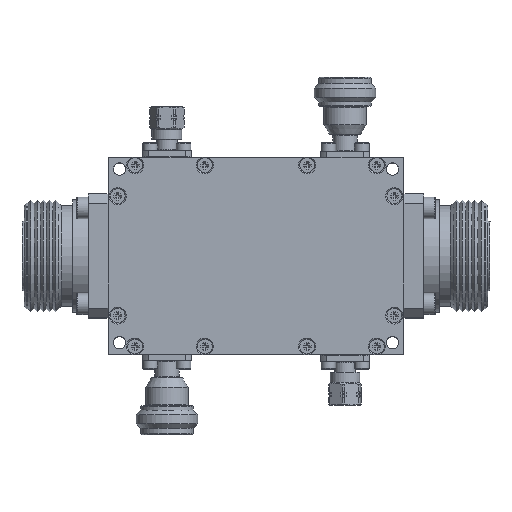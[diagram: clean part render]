
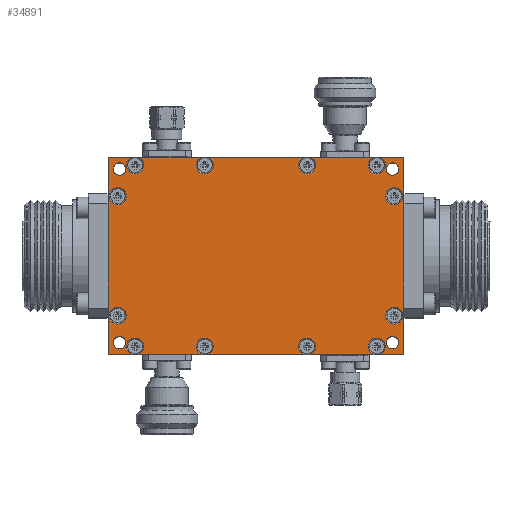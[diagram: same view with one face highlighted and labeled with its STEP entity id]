
A CAD part, top view. The second image highlights one B-rep face of the part: STEP entity #34891.
In plain terms, the highlighted planar face has unit normal (0, 0, 1).
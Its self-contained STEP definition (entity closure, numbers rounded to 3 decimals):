
#1176=LINE('',#46122,#3040);
#1177=LINE('',#46127,#3041);
#1178=LINE('',#46131,#3042);
#1179=LINE('',#46135,#3043);
#1180=LINE('',#46139,#3044);
#1181=LINE('',#46141,#3045);
#1182=LINE('',#46143,#3046);
#1183=LINE('',#46147,#3047);
#1184=LINE('',#46151,#3048);
#1185=LINE('',#46155,#3049);
#1186=LINE('',#46159,#3050);
#1187=LINE('',#46161,#3051);
#3040=VECTOR('',#39209,1000.);
#3041=VECTOR('',#39212,1000.);
#3042=VECTOR('',#39215,1000.);
#3043=VECTOR('',#39218,1000.);
#3044=VECTOR('',#39221,1000.);
#3045=VECTOR('',#39222,1000.);
#3046=VECTOR('',#39223,1000.);
#3047=VECTOR('',#39226,1000.);
#3048=VECTOR('',#39229,1000.);
#3049=VECTOR('',#39232,1000.);
#3050=VECTOR('',#39235,1000.);
#3051=VECTOR('',#39236,1000.);
#4850=PLANE('',#36562);
#5869=ORIENTED_EDGE('',*,*,#12432,.F.);
#5870=ORIENTED_EDGE('',*,*,#12433,.T.);
#5871=ORIENTED_EDGE('',*,*,#12434,.F.);
#5872=ORIENTED_EDGE('',*,*,#12435,.T.);
#5873=ORIENTED_EDGE('',*,*,#12436,.F.);
#5874=ORIENTED_EDGE('',*,*,#12437,.T.);
#5875=ORIENTED_EDGE('',*,*,#12438,.F.);
#5876=ORIENTED_EDGE('',*,*,#12439,.T.);
#5877=ORIENTED_EDGE('',*,*,#12440,.F.);
#5878=ORIENTED_EDGE('',*,*,#12441,.F.);
#5879=ORIENTED_EDGE('',*,*,#12442,.F.);
#5880=ORIENTED_EDGE('',*,*,#12443,.T.);
#5881=ORIENTED_EDGE('',*,*,#12444,.F.);
#5882=ORIENTED_EDGE('',*,*,#12445,.T.);
#5883=ORIENTED_EDGE('',*,*,#12446,.F.);
#5884=ORIENTED_EDGE('',*,*,#12447,.T.);
#5885=ORIENTED_EDGE('',*,*,#12448,.F.);
#5886=ORIENTED_EDGE('',*,*,#12449,.T.);
#5887=ORIENTED_EDGE('',*,*,#12450,.F.);
#5888=ORIENTED_EDGE('',*,*,#12451,.F.);
#5889=ORIENTED_EDGE('',*,*,#12452,.F.);
#5890=ORIENTED_EDGE('',*,*,#12453,.F.);
#5891=ORIENTED_EDGE('',*,*,#12454,.F.);
#5892=ORIENTED_EDGE('',*,*,#12455,.F.);
#5893=ORIENTED_EDGE('',*,*,#12431,.T.);
#5894=ORIENTED_EDGE('',*,*,#12429,.T.);
#5895=ORIENTED_EDGE('',*,*,#12427,.T.);
#5896=ORIENTED_EDGE('',*,*,#12425,.T.);
#12425=EDGE_CURVE('',#15721,#15721,#18123,.T.);
#12427=EDGE_CURVE('',#15723,#15723,#18125,.T.);
#12429=EDGE_CURVE('',#15725,#15725,#18127,.T.);
#12431=EDGE_CURVE('',#15727,#15727,#18129,.T.);
#12432=EDGE_CURVE('',#15728,#15729,#1176,.T.);
#12433=EDGE_CURVE('',#15728,#15730,#18130,.T.);
#12434=EDGE_CURVE('',#15731,#15730,#1177,.T.);
#12435=EDGE_CURVE('',#15731,#15732,#18131,.T.);
#12436=EDGE_CURVE('',#15733,#15732,#1178,.T.);
#12437=EDGE_CURVE('',#15733,#15734,#18132,.T.);
#12438=EDGE_CURVE('',#15735,#15734,#1179,.T.);
#12439=EDGE_CURVE('',#15735,#15736,#18133,.T.);
#12440=EDGE_CURVE('',#15737,#15736,#1180,.T.);
#12441=EDGE_CURVE('',#15738,#15737,#1181,.T.);
#12442=EDGE_CURVE('',#15739,#15738,#1182,.T.);
#12443=EDGE_CURVE('',#15739,#15740,#18134,.T.);
#12444=EDGE_CURVE('',#15741,#15740,#1183,.T.);
#12445=EDGE_CURVE('',#15741,#15742,#18135,.T.);
#12446=EDGE_CURVE('',#15743,#15742,#1184,.T.);
#12447=EDGE_CURVE('',#15743,#15744,#18136,.T.);
#12448=EDGE_CURVE('',#15745,#15744,#1185,.T.);
#12449=EDGE_CURVE('',#15745,#15746,#18137,.T.);
#12450=EDGE_CURVE('',#15747,#15746,#1186,.T.);
#12451=EDGE_CURVE('',#15729,#15747,#1187,.T.);
#12452=EDGE_CURVE('',#15748,#15748,#18138,.T.);
#12453=EDGE_CURVE('',#15749,#15749,#18139,.T.);
#12454=EDGE_CURVE('',#15750,#15750,#18140,.T.);
#12455=EDGE_CURVE('',#15751,#15751,#18141,.T.);
#15721=VERTEX_POINT('',#46105);
#15723=VERTEX_POINT('',#46110);
#15725=VERTEX_POINT('',#46115);
#15727=VERTEX_POINT('',#46120);
#15728=VERTEX_POINT('',#46123);
#15729=VERTEX_POINT('',#46124);
#15730=VERTEX_POINT('',#46126);
#15731=VERTEX_POINT('',#46128);
#15732=VERTEX_POINT('',#46130);
#15733=VERTEX_POINT('',#46132);
#15734=VERTEX_POINT('',#46134);
#15735=VERTEX_POINT('',#46136);
#15736=VERTEX_POINT('',#46138);
#15737=VERTEX_POINT('',#46140);
#15738=VERTEX_POINT('',#46142);
#15739=VERTEX_POINT('',#46144);
#15740=VERTEX_POINT('',#46146);
#15741=VERTEX_POINT('',#46148);
#15742=VERTEX_POINT('',#46150);
#15743=VERTEX_POINT('',#46152);
#15744=VERTEX_POINT('',#46154);
#15745=VERTEX_POINT('',#46156);
#15746=VERTEX_POINT('',#46158);
#15747=VERTEX_POINT('',#46160);
#15748=VERTEX_POINT('',#46163);
#15749=VERTEX_POINT('',#46165);
#15750=VERTEX_POINT('',#46167);
#15751=VERTEX_POINT('',#46169);
#18123=CIRCLE('',#36552,2.2);
#18125=CIRCLE('',#36555,2.2);
#18127=CIRCLE('',#36558,2.2);
#18129=CIRCLE('',#36561,2.2);
#18130=CIRCLE('',#36563,2.2);
#18131=CIRCLE('',#36564,2.2);
#18132=CIRCLE('',#36565,2.2);
#18133=CIRCLE('',#36566,2.2);
#18134=CIRCLE('',#36567,2.2);
#18135=CIRCLE('',#36568,2.2);
#18136=CIRCLE('',#36569,2.2);
#18137=CIRCLE('',#36570,2.2);
#18138=CIRCLE('',#36571,1.6);
#18139=CIRCLE('',#36572,1.6);
#18140=CIRCLE('',#36573,1.6);
#18141=CIRCLE('',#36574,1.6);
#19093=EDGE_LOOP('',(#5869,#5870,#5871,#5872,#5873,#5874,#5875,#5876,#5877,
#5878,#5879,#5880,#5881,#5882,#5883,#5884,#5885,#5886,#5887,#5888));
#19094=EDGE_LOOP('',(#5889));
#19095=EDGE_LOOP('',(#5890));
#19096=EDGE_LOOP('',(#5891));
#19097=EDGE_LOOP('',(#5892));
#19098=EDGE_LOOP('',(#5893));
#19099=EDGE_LOOP('',(#5894));
#19100=EDGE_LOOP('',(#5895));
#19101=EDGE_LOOP('',(#5896));
#21271=FACE_BOUND('',#19093,.T.);
#21272=FACE_BOUND('',#19094,.T.);
#21273=FACE_BOUND('',#19095,.T.);
#21274=FACE_BOUND('',#19096,.T.);
#21275=FACE_BOUND('',#19097,.T.);
#21276=FACE_BOUND('',#19098,.T.);
#21277=FACE_BOUND('',#19099,.T.);
#21278=FACE_BOUND('',#19100,.T.);
#21279=FACE_BOUND('',#19101,.T.);
#34891=ADVANCED_FACE('',(#21271,#21272,#21273,#21274,#21275,#21276,#21277,
#21278,#21279),#4850,.F.);
#36552=AXIS2_PLACEMENT_3D('',#46104,#39187,#39188);
#36555=AXIS2_PLACEMENT_3D('',#46109,#39193,#39194);
#36558=AXIS2_PLACEMENT_3D('',#46114,#39199,#39200);
#36561=AXIS2_PLACEMENT_3D('',#46119,#39205,#39206);
#36562=AXIS2_PLACEMENT_3D('',#46121,#39207,#39208);
#36563=AXIS2_PLACEMENT_3D('',#46125,#39210,#39211);
#36564=AXIS2_PLACEMENT_3D('',#46129,#39213,#39214);
#36565=AXIS2_PLACEMENT_3D('',#46133,#39216,#39217);
#36566=AXIS2_PLACEMENT_3D('',#46137,#39219,#39220);
#36567=AXIS2_PLACEMENT_3D('',#46145,#39224,#39225);
#36568=AXIS2_PLACEMENT_3D('',#46149,#39227,#39228);
#36569=AXIS2_PLACEMENT_3D('',#46153,#39230,#39231);
#36570=AXIS2_PLACEMENT_3D('',#46157,#39233,#39234);
#36571=AXIS2_PLACEMENT_3D('',#46162,#39237,#39238);
#36572=AXIS2_PLACEMENT_3D('',#46164,#39239,#39240);
#36573=AXIS2_PLACEMENT_3D('',#46166,#39241,#39242);
#36574=AXIS2_PLACEMENT_3D('',#46168,#39243,#39244);
#39187=DIRECTION('',(0.,0.,-1.));
#39188=DIRECTION('',(0.,1.,0.));
#39193=DIRECTION('',(0.,0.,-1.));
#39194=DIRECTION('',(0.,1.,0.));
#39199=DIRECTION('',(0.,0.,-1.));
#39200=DIRECTION('',(0.,1.,0.));
#39205=DIRECTION('',(0.,0.,-1.));
#39206=DIRECTION('',(0.,1.,0.));
#39207=DIRECTION('',(0.,0.,-1.));
#39208=DIRECTION('',(-1.,0.,0.));
#39209=DIRECTION('',(-1.,0.,0.));
#39210=DIRECTION('',(0.,0.,-1.));
#39211=DIRECTION('',(0.,1.,0.));
#39212=DIRECTION('',(-1.,0.,0.));
#39213=DIRECTION('',(0.,0.,-1.));
#39214=DIRECTION('',(0.,1.,0.));
#39215=DIRECTION('',(-1.,0.,0.));
#39216=DIRECTION('',(0.,0.,-1.));
#39217=DIRECTION('',(0.,1.,0.));
#39218=DIRECTION('',(-1.,0.,0.));
#39219=DIRECTION('',(0.,0.,-1.));
#39220=DIRECTION('',(0.,1.,0.));
#39221=DIRECTION('',(-1.,0.,0.));
#39222=DIRECTION('',(0.,-1.,0.));
#39223=DIRECTION('',(1.,0.,0.));
#39224=DIRECTION('',(0.,0.,-1.));
#39225=DIRECTION('',(0.,1.,0.));
#39226=DIRECTION('',(1.,0.,0.));
#39227=DIRECTION('',(0.,0.,-1.));
#39228=DIRECTION('',(0.,1.,0.));
#39229=DIRECTION('',(1.,0.,0.));
#39230=DIRECTION('',(0.,0.,-1.));
#39231=DIRECTION('',(0.,1.,0.));
#39232=DIRECTION('',(1.,0.,0.));
#39233=DIRECTION('',(0.,0.,-1.));
#39234=DIRECTION('',(0.,1.,0.));
#39235=DIRECTION('',(1.,0.,0.));
#39236=DIRECTION('',(0.,1.,0.));
#39237=DIRECTION('',(0.,0.,1.));
#39238=DIRECTION('',(1.,0.,0.));
#39239=DIRECTION('',(0.,0.,1.));
#39240=DIRECTION('',(1.,0.,0.));
#39241=DIRECTION('',(0.,0.,1.));
#39242=DIRECTION('',(1.,0.,0.));
#39243=DIRECTION('',(0.,0.,1.));
#39244=DIRECTION('',(1.,0.,0.));
#46104=CARTESIAN_POINT('',(35.7,-15.4,11.));
#46105=CARTESIAN_POINT('',(35.7,-13.2,11.));
#46109=CARTESIAN_POINT('',(35.7,15.4,11.));
#46110=CARTESIAN_POINT('',(35.7,17.6,11.));
#46114=CARTESIAN_POINT('',(-35.7,15.4,11.));
#46115=CARTESIAN_POINT('',(-35.7,17.6,11.));
#46119=CARTESIAN_POINT('',(-35.7,-15.4,11.));
#46120=CARTESIAN_POINT('',(-35.7,-13.2,11.));
#46121=CARTESIAN_POINT('',(0.,0.,11.));
#46122=CARTESIAN_POINT('',(38.2,-25.4,11.));
#46123=CARTESIAN_POINT('',(-32.117,-25.4,11.));
#46124=CARTESIAN_POINT('',(-38.2,-25.4,11.));
#46125=CARTESIAN_POINT('',(-31.2,-23.4,11.));
#46126=CARTESIAN_POINT('',(-30.283,-25.4,11.));
#46127=CARTESIAN_POINT('',(38.2,-25.4,11.));
#46128=CARTESIAN_POINT('',(-14.117,-25.4,11.));
#46129=CARTESIAN_POINT('',(-13.2,-23.4,11.));
#46130=CARTESIAN_POINT('',(-12.283,-25.4,11.));
#46131=CARTESIAN_POINT('',(38.2,-25.4,11.));
#46132=CARTESIAN_POINT('',(12.283,-25.4,11.));
#46133=CARTESIAN_POINT('',(13.2,-23.4,11.));
#46134=CARTESIAN_POINT('',(14.117,-25.4,11.));
#46135=CARTESIAN_POINT('',(38.2,-25.4,11.));
#46136=CARTESIAN_POINT('',(30.283,-25.4,11.));
#46137=CARTESIAN_POINT('',(31.2,-23.4,11.));
#46138=CARTESIAN_POINT('',(32.117,-25.4,11.));
#46139=CARTESIAN_POINT('',(38.2,-25.4,11.));
#46140=CARTESIAN_POINT('',(38.2,-25.4,11.));
#46141=CARTESIAN_POINT('',(38.2,25.4,11.));
#46142=CARTESIAN_POINT('',(38.2,25.4,11.));
#46143=CARTESIAN_POINT('',(-38.2,25.4,11.));
#46144=CARTESIAN_POINT('',(32.117,25.4,11.));
#46145=CARTESIAN_POINT('',(31.2,23.4,11.));
#46146=CARTESIAN_POINT('',(30.283,25.4,11.));
#46147=CARTESIAN_POINT('',(-38.2,25.4,11.));
#46148=CARTESIAN_POINT('',(14.117,25.4,11.));
#46149=CARTESIAN_POINT('',(13.2,23.4,11.));
#46150=CARTESIAN_POINT('',(12.283,25.4,11.));
#46151=CARTESIAN_POINT('',(-38.2,25.4,11.));
#46152=CARTESIAN_POINT('',(-12.283,25.4,11.));
#46153=CARTESIAN_POINT('',(-13.2,23.4,11.));
#46154=CARTESIAN_POINT('',(-14.117,25.4,11.));
#46155=CARTESIAN_POINT('',(-38.2,25.4,11.));
#46156=CARTESIAN_POINT('',(-30.283,25.4,11.));
#46157=CARTESIAN_POINT('',(-31.2,23.4,11.));
#46158=CARTESIAN_POINT('',(-32.117,25.4,11.));
#46159=CARTESIAN_POINT('',(-38.2,25.4,11.));
#46160=CARTESIAN_POINT('',(-38.2,25.4,11.));
#46161=CARTESIAN_POINT('',(-38.2,-25.4,11.));
#46162=CARTESIAN_POINT('',(-35.2,22.4,11.));
#46163=CARTESIAN_POINT('',(-33.6,22.4,11.));
#46164=CARTESIAN_POINT('',(35.2,22.4,11.));
#46165=CARTESIAN_POINT('',(36.8,22.4,11.));
#46166=CARTESIAN_POINT('',(35.2,-22.4,11.));
#46167=CARTESIAN_POINT('',(36.8,-22.4,11.));
#46168=CARTESIAN_POINT('',(-35.2,-22.4,11.));
#46169=CARTESIAN_POINT('',(-33.6,-22.4,11.));
